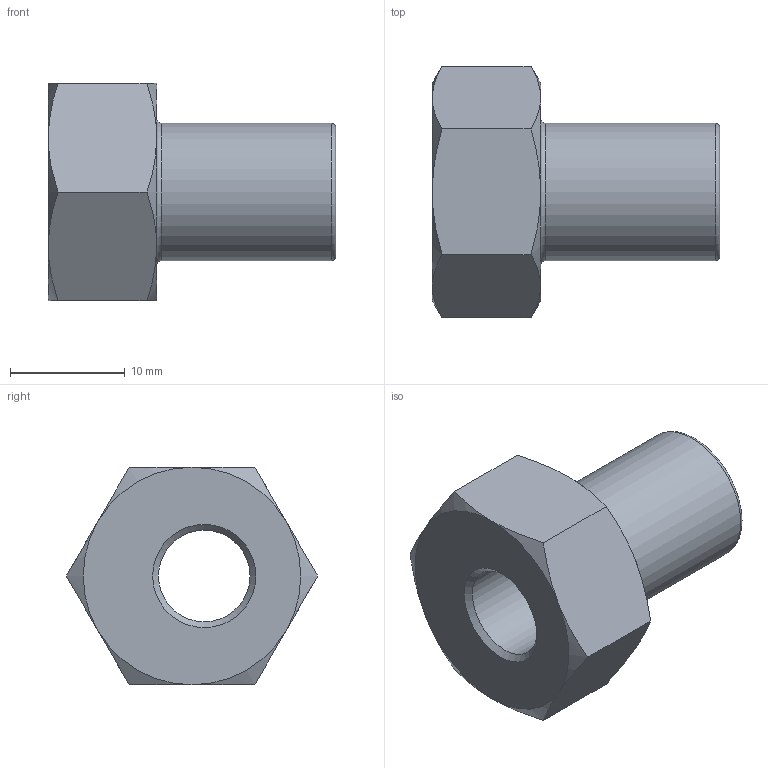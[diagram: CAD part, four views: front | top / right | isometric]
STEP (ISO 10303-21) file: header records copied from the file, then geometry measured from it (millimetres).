
FILE_DESCRIPTION( ( 'STEP AP214' ), '1' );
FILE_NAME( 'p:/temp/worker_29/temp/app_51_02019012316263487354465192d056f_000000_00_00_000000/format_0/MBX3SS.stp', '2019-01-23T15:26:35', ( '' ), ( '' ), ' ', 'PARTsolutions', ' ' );
FILE_SCHEMA( ( 'AUTOMOTIVE_DESIGN { 1 0 10303 214 1 1 1 1 }' ) );
Length unit declared in the file: inch
Products named in the file (1): _MBX3SS
Bounding box: 25.1 x 21.94 x 19 mm (x, y, z)
Volume: 3442.3 mm3; surface area: 2311.3 mm2
Topology: 1 solids, 1 shells, 27 faces, 56 edges, 32 vertices
Faces by surface type: cone 14, plane 9, torus 2, cylinder 2
Full cylindrical faces by diameter (mm): 8 x1, 11.99 x1
Entity records: 996 total; most frequent: CARTESIAN_POINT 246, DIRECTION 102, ORIENTED_EDGE 100, EDGE_CURVE 50, AXIS2_PLACEMENT_3D 48, EDGE_LOOP 36, VERTEX_POINT 32, FACE_OUTER_BOUND 31
